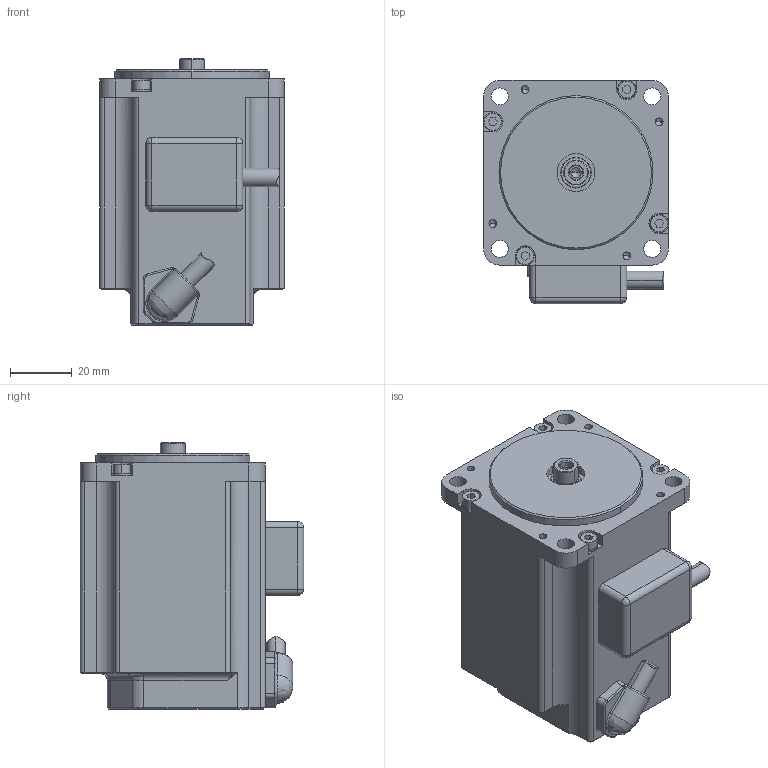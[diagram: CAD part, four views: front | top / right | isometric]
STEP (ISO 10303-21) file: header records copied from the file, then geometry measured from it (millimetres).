
FILE_DESCRIPTION (( 'STEP AP214' ), '1' );
FILE_NAME ('SGM7A-01APK-YR1.STEP', '2021-04-12T14:33:56', ( '' ), ( '' ), 'SwSTEP 2.0', 'SolidWorks 2019', '' );
FILE_SCHEMA (( 'AUTOMOTIVE_DESIGN' ));
Length unit declared in the file: millimetre
Products named in the file (1): SGM7A-01APK-YR1
Bounding box: 60 x 72.5 x 86.6 mm (x, y, z)
Volume: 254814.3 mm3; surface area: 28155.4 mm2
Topology: 1 solids, 1 shells, 271 faces, 684 edges, 415 vertices
Faces by surface type: plane 107, cylinder 104, cone 38, bspline 22
Entity records: 12449 total; most frequent: CARTESIAN_POINT 3142, ORIENTED_EDGE 1314, DIRECTION 1304, EDGE_CURVE 657, AXIS2_PLACEMENT_3D 470, VERTEX_POINT 409, LINE 364, VECTOR 364
